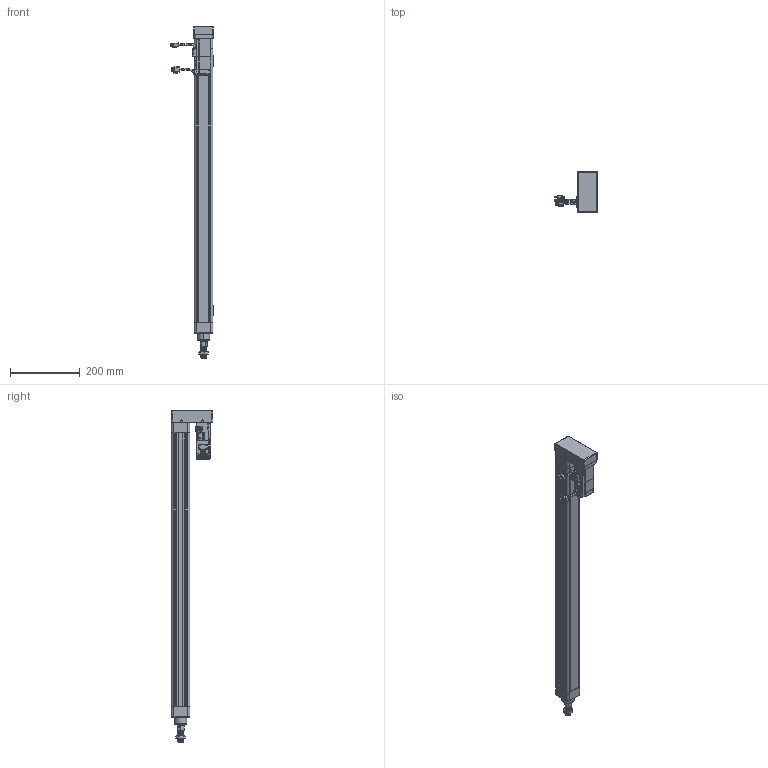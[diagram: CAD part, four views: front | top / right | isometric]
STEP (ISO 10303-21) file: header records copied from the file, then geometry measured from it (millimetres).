
FILE_DESCRIPTION (( 'STEP AP203' ), '1' );
FILE_NAME ('VEC50-10-C-700-MF-ZP10B-MS2.STEP', '2019-01-26T03:32:01', ( 'vobosh 6' ), ( 'Microsoft' ), 'SwSTEP 2.0', 'SolidWorks 2016', '' );
FILE_SCHEMA (( 'CONFIG_CONTROL_DESIGN' ));
Length unit declared in the file: millimetre
Products named in the file (12): VEC50-MF-200-004-X1; VEC50-MF-200-001-X1; MHMF012L1V2; VEC50-MF-200-002-X1; VEC50-MF-200-003-X1; VEC50-MF-200-005-X1; 带尾螺母M6x9x45（镀镍）; VEC50-10-C-700-MF-ZP10B-MS2; 柈ч肣薦え耳9x耳8.5x4.4; VEC50-MF-200-011-X1; CS1-M; 鞠褒蹟譫M16x1.5
Assembly tree (20 placements, depth 2):
  VEC50-10-C-700-MF-ZP10B-MS2
    VEC50-MF-200-001-X1
    VEC50-MF-200-002-X1
    VEC50-MF-200-003-X1
    带尾螺母M6x9x45（镀镍）  x8
    柈ч肣薦え耳9x耳8.5x4.4  x2
    VEC50-MF-200-011-X1
    CS1-M  x2
    鞠褒蹟譫M16x1.5
    VEC50-MF-200-004-X1
    MHMF012L1V2
    VEC50-MF-200-005-X1
Bounding box: 122.5 x 118 x 949 mm (x, y, z)
Volume: 1390209.1 mm3; surface area: 501264.4 mm2
Topology: 27 solids, 27 shells, 1970 faces, 4861 edges, 3048 vertices
Faces by surface type: plane 902, cylinder 703, cone 239, bspline 117, torus 9
Entity records: 59744 total; most frequent: CARTESIAN_POINT 16772, DIRECTION 8631, ORIENTED_EDGE 8630, EDGE_CURVE 4315, AXIS2_PLACEMENT_3D 2988, VERTEX_POINT 2755, VECTOR 2655, LINE 2655
